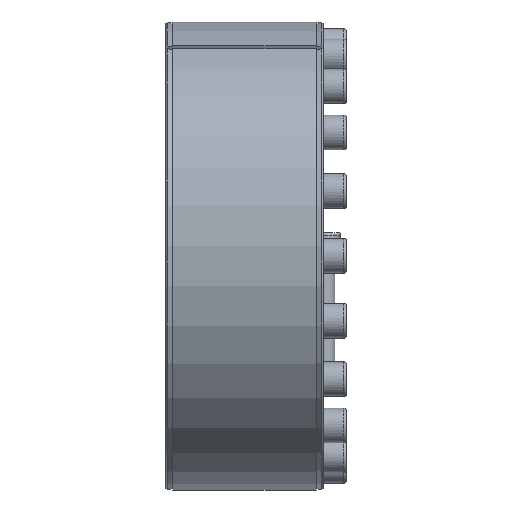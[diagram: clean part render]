
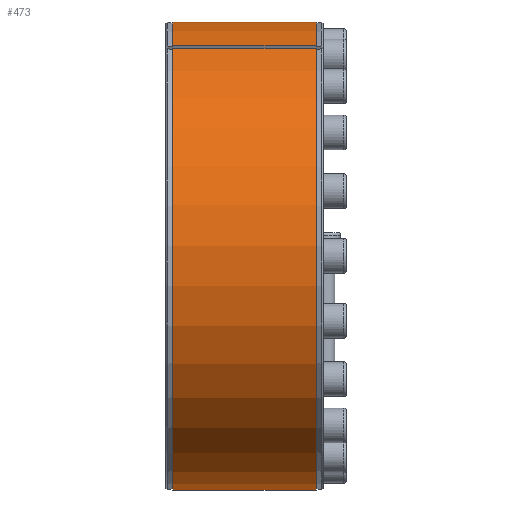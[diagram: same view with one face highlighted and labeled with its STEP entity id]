
A CAD part, left-side view. The second image highlights one B-rep face of the part: STEP entity #473.
In plain terms, the highlighted cylindrical face has radius 202.5 mm (diameter 405 mm), a partial arc.
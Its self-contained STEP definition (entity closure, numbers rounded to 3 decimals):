
#473 = ADVANCED_FACE( '', ( #876 ), #877, .T. );
#876 = FACE_OUTER_BOUND( '', #1288, .T. );
#877 = CYLINDRICAL_SURFACE( '', #1289, 202.5 );
#1288 = EDGE_LOOP( '', ( #1865, #1866, #1867, #1868 ) );
#1289 = AXIS2_PLACEMENT_3D( '', #1869, #1870, #1871 );
#1865 = ORIENTED_EDGE( '', *, *, #2416, .T. );
#1866 = ORIENTED_EDGE( '', *, *, #2375, .T. );
#1867 = ORIENTED_EDGE( '', *, *, #2444, .F. );
#1868 = ORIENTED_EDGE( '', *, *, #2546, .T. );
#1869 = CARTESIAN_POINT( '', ( 0., -60., 0. ) );
#1870 = DIRECTION( '', ( 0., 1., 0. ) );
#1871 = DIRECTION( '', ( 0., 0., -1. ) );
#2375 = EDGE_CURVE( '', #2650, #2648, #2651, .T. );
#2416 = EDGE_CURVE( '', #2726, #2650, #2727, .T. );
#2444 = EDGE_CURVE( '', #2778, #2648, #2779, .T. );
#2546 = EDGE_CURVE( '', #2778, #2726, #2969, .F. );
#2648 = VERTEX_POINT( '', #3045 );
#2650 = VERTEX_POINT( '', #3048 );
#2651 = LINE( '', #3049, #3050 );
#2726 = VERTEX_POINT( '', #3150 );
#2727 = CIRCLE( '', #3151, 202.5 );
#2778 = VERTEX_POINT( '', #3210 );
#2779 = CIRCLE( '', #3211, 202.5 );
#2969 = LINE( '', #3424, #3425 );
#3045 = CARTESIAN_POINT( '', ( -89.474, 6., 181.661 ) );
#3048 = CARTESIAN_POINT( '', ( -89.474, 130., 181.661 ) );
#3049 = CARTESIAN_POINT( '', ( -89.474, -60., 181.661 ) );
#3050 = VECTOR( '', #3440, 1000. );
#3150 = CARTESIAN_POINT( '', ( -94.375, 130., 179.164 ) );
#3151 = AXIS2_PLACEMENT_3D( '', #3532, #3533, #3534 );
#3210 = CARTESIAN_POINT( '', ( -94.375, 6., 179.164 ) );
#3211 = AXIS2_PLACEMENT_3D( '', #3606, #3607, #3608 );
#3424 = CARTESIAN_POINT( '', ( -94.375, -60., 179.164 ) );
#3425 = VECTOR( '', #3881, 1000. );
#3440 = DIRECTION( '', ( 0., -1., 0. ) );
#3532 = CARTESIAN_POINT( '', ( 0., 130., 0. ) );
#3533 = DIRECTION( '', ( 0., -1., 0. ) );
#3534 = DIRECTION( '', ( 0., 0., -1. ) );
#3606 = CARTESIAN_POINT( '', ( 0., 6., 0. ) );
#3607 = DIRECTION( '', ( 0., -1., 0. ) );
#3608 = DIRECTION( '', ( 0., 0., -1. ) );
#3881 = DIRECTION( '', ( 0., -1., 0. ) );
